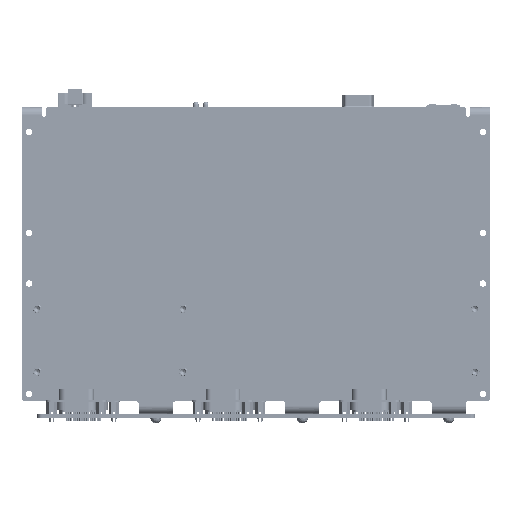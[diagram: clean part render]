
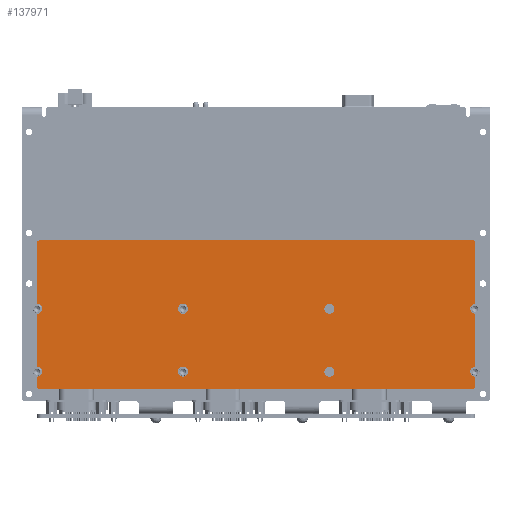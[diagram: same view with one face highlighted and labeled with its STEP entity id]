
A CAD part, front view. The second image highlights one B-rep face of the part: STEP entity #137971.
In plain terms, the highlighted planar face has unit normal (0, -1, 0).
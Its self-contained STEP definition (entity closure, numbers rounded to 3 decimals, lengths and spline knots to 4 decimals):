
#32032=CARTESIAN_POINT('',(-4.35,-0.3172,-2.485));
#32033=DIRECTION('',(0.,1.,0.));
#32034=DIRECTION('',(0.,0.,1.));
#32035=AXIS2_PLACEMENT_3D('',#32032,#32033,#32034);
#32045=CARTESIAN_POINT('',(-4.35,-0.3172,-1.235));
#32046=DIRECTION('',(0.,1.,0.));
#32047=DIRECTION('',(0.,0.,1.));
#32048=AXIS2_PLACEMENT_3D('',#32045,#32046,#32047);
#32074=CARTESIAN_POINT('',(4.359,-0.3172,-1.235));
#32075=DIRECTION('',(0.,1.,0.));
#32076=DIRECTION('',(0.01,0.,-1.));
#32077=AXIS2_PLACEMENT_3D('',#32074,#32075,#32076);
#32087=CARTESIAN_POINT('',(4.359,-0.3172,-2.485));
#32088=DIRECTION('',(0.,1.,0.));
#32089=DIRECTION('',(0.01,0.,-1.));
#32090=AXIS2_PLACEMENT_3D('',#32087,#32088,#32089);
#32108=CARTESIAN_POINT('',(4.31,-0.3172,-2.775));
#32109=DIRECTION('',(0.,-1.,0.));
#32110=DIRECTION('',(0.,0.,-1.));
#32111=AXIS2_PLACEMENT_3D('',#32108,#32109,#32110);
#32113=DIRECTION('',(-1.,0.,0.));
#32114=VECTOR('',#32113,8.61);
#32115=CARTESIAN_POINT('',(4.31,-0.3172,-2.825));
#32116=LINE('',#32115,#32114);
#32117=CARTESIAN_POINT('',(-4.3,-0.3172,-2.775));
#32118=DIRECTION('',(0.,-1.,0.));
#32119=DIRECTION('',(-1.,0.,0.));
#32120=AXIS2_PLACEMENT_3D('',#32117,#32118,#32119);
#32122=DIRECTION('',(0.,0.,1.));
#32123=VECTOR('',#32122,0.19);
#32124=CARTESIAN_POINT('',(-4.35,-0.3172,-2.775));
#32125=LINE('',#32124,#32123);
#32126=DIRECTION('',(0.,0.,1.));
#32127=VECTOR('',#32126,1.05);
#32128=CARTESIAN_POINT('',(-4.35,-0.3172,-2.385));
#32129=LINE('',#32128,#32127);
#32130=DIRECTION('',(0.,0.,1.));
#32131=VECTOR('',#32130,1.21);
#32132=CARTESIAN_POINT('',(-4.35,-0.3172,-1.135));
#32133=LINE('',#32132,#32131);
#32134=CARTESIAN_POINT('',(-4.3,-0.3172,0.075));
#32135=DIRECTION('',(0.,-1.,0.));
#32136=DIRECTION('',(0.,0.,1.));
#32137=AXIS2_PLACEMENT_3D('',#32134,#32135,#32136);
#32139=DIRECTION('',(1.,0.,0.));
#32140=VECTOR('',#32139,8.61);
#32141=CARTESIAN_POINT('',(-4.3,-0.3172,0.125));
#32142=LINE('',#32141,#32140);
#32143=CARTESIAN_POINT('',(4.31,-0.3172,0.075));
#32144=DIRECTION('',(0.,-1.,0.));
#32145=DIRECTION('',(1.,0.,0.));
#32146=AXIS2_PLACEMENT_3D('',#32143,#32144,#32145);
#32148=DIRECTION('',(0.,0.,-1.));
#32149=VECTOR('',#32148,1.21);
#32150=CARTESIAN_POINT('',(4.36,-0.3172,0.075));
#32151=LINE('',#32150,#32149);
#32152=DIRECTION('',(0.,0.,-1.));
#32153=VECTOR('',#32152,1.05);
#32154=CARTESIAN_POINT('',(4.36,-0.3172,-1.335));
#32155=LINE('',#32154,#32153);
#32156=DIRECTION('',(0.,0.,-1.));
#32157=VECTOR('',#32156,0.19);
#32158=CARTESIAN_POINT('',(4.36,-0.3172,-2.585));
#32159=LINE('',#32158,#32157);
#32160=CARTESIAN_POINT('',(-1.4505,-0.3172,-1.235));
#32161=DIRECTION('',(0.,-1.,0.));
#32162=DIRECTION('',(1.,0.,0.));
#32163=AXIS2_PLACEMENT_3D('',#32160,#32161,#32162);
#32165=CARTESIAN_POINT('',(-1.4505,-0.3172,-1.235));
#32166=DIRECTION('',(0.,-1.,0.));
#32167=DIRECTION('',(-1.,0.,0.));
#32168=AXIS2_PLACEMENT_3D('',#32165,#32166,#32167);
#32170=CARTESIAN_POINT('',(-1.4505,-0.3172,-2.485));
#32171=DIRECTION('',(0.,-1.,0.));
#32172=DIRECTION('',(1.,0.,0.));
#32173=AXIS2_PLACEMENT_3D('',#32170,#32171,#32172);
#32175=CARTESIAN_POINT('',(-1.4505,-0.3172,-2.485));
#32176=DIRECTION('',(0.,-1.,0.));
#32177=DIRECTION('',(-1.,0.,0.));
#32178=AXIS2_PLACEMENT_3D('',#32175,#32176,#32177);
#32180=CARTESIAN_POINT('',(1.4595,-0.3172,-1.235));
#32181=DIRECTION('',(0.,-1.,0.));
#32182=DIRECTION('',(1.,0.,0.));
#32183=AXIS2_PLACEMENT_3D('',#32180,#32181,#32182);
#32185=CARTESIAN_POINT('',(1.4595,-0.3172,-1.235));
#32186=DIRECTION('',(0.,-1.,0.));
#32187=DIRECTION('',(-1.,0.,0.));
#32188=AXIS2_PLACEMENT_3D('',#32185,#32186,#32187);
#32190=CARTESIAN_POINT('',(1.4595,-0.3172,-2.485));
#32191=DIRECTION('',(0.,-1.,0.));
#32192=DIRECTION('',(1.,0.,0.));
#32193=AXIS2_PLACEMENT_3D('',#32190,#32191,#32192);
#32195=CARTESIAN_POINT('',(1.4595,-0.3172,-2.485));
#32196=DIRECTION('',(0.,-1.,0.));
#32197=DIRECTION('',(-1.,0.,0.));
#32198=AXIS2_PLACEMENT_3D('',#32195,#32196,#32197);
#99115=CARTESIAN_POINT('',(-1.3505,-0.3172,-1.235));
#99116=CARTESIAN_POINT('',(-1.5505,-0.3172,-1.235));
#99117=VERTEX_POINT('',#99115);
#99118=VERTEX_POINT('',#99116);
#99119=CARTESIAN_POINT('',(-1.3505,-0.3172,-2.485));
#99120=CARTESIAN_POINT('',(-1.5505,-0.3172,-2.485));
#99121=VERTEX_POINT('',#99119);
#99122=VERTEX_POINT('',#99120);
#99123=CARTESIAN_POINT('',(1.5595,-0.3172,-1.235));
#99124=CARTESIAN_POINT('',(1.3595,-0.3172,-1.235));
#99125=VERTEX_POINT('',#99123);
#99126=VERTEX_POINT('',#99124);
#99127=CARTESIAN_POINT('',(1.5595,-0.3172,-2.485));
#99128=CARTESIAN_POINT('',(1.3595,-0.3172,-2.485));
#99129=VERTEX_POINT('',#99127);
#99130=VERTEX_POINT('',#99128);
#99131=CARTESIAN_POINT('',(-4.35,-0.3172,-2.385));
#99132=CARTESIAN_POINT('',(-4.35,-0.3172,-1.335));
#99133=VERTEX_POINT('',#99131);
#99134=VERTEX_POINT('',#99132);
#99135=CARTESIAN_POINT('',(4.36,-0.3172,-1.335));
#99136=CARTESIAN_POINT('',(4.36,-0.3172,-2.385));
#99137=VERTEX_POINT('',#99135);
#99138=VERTEX_POINT('',#99136);
#99139=CARTESIAN_POINT('',(-4.35,-0.3172,-1.135));
#99140=VERTEX_POINT('',#99139);
#99141=CARTESIAN_POINT('',(-4.35,-0.3172,-2.585));
#99142=VERTEX_POINT('',#99141);
#99143=CARTESIAN_POINT('',(4.36,-0.3172,-2.585));
#99144=VERTEX_POINT('',#99143);
#99145=CARTESIAN_POINT('',(4.36,-0.3172,-1.135));
#99146=VERTEX_POINT('',#99145);
#99147=CARTESIAN_POINT('',(4.31,-0.3172,-2.825));
#99148=CARTESIAN_POINT('',(4.36,-0.3172,-2.775));
#99149=VERTEX_POINT('',#99147);
#99150=VERTEX_POINT('',#99148);
#99151=CARTESIAN_POINT('',(4.36,-0.3172,0.075));
#99152=CARTESIAN_POINT('',(4.31,-0.3172,0.125));
#99153=VERTEX_POINT('',#99151);
#99154=VERTEX_POINT('',#99152);
#99155=CARTESIAN_POINT('',(-4.3,-0.3172,0.125));
#99156=CARTESIAN_POINT('',(-4.35,-0.3172,0.075));
#99157=VERTEX_POINT('',#99155);
#99158=VERTEX_POINT('',#99156);
#99159=CARTESIAN_POINT('',(-4.35,-0.3172,-2.775));
#99160=CARTESIAN_POINT('',(-4.3,-0.3172,-2.825));
#99161=VERTEX_POINT('',#99159);
#99162=VERTEX_POINT('',#99160);
#137924=CARTESIAN_POINT('',(0.005,-0.3172,-1.35));
#137925=DIRECTION('',(0.,1.,0.));
#137926=DIRECTION('',(1.,0.,0.));
#137927=AXIS2_PLACEMENT_3D('',#137924,#137925,#137926);
#137928=PLANE('',#137927);
#137929=ORIENTED_EDGE('',*,*,#137891,.F.);
#137930=ORIENTED_EDGE('',*,*,#137905,.T.);
#137931=ORIENTED_EDGE('',*,*,#137918,.F.);
#137932=ORIENTED_EDGE('',*,*,#137708,.T.);
#137933=ORIENTED_EDGE('',*,*,#137723,.F.);
#137934=ORIENTED_EDGE('',*,*,#137737,.T.);
#137935=ORIENTED_EDGE('',*,*,#137751,.F.);
#137936=ORIENTED_EDGE('',*,*,#137765,.T.);
#137937=ORIENTED_EDGE('',*,*,#137779,.F.);
#137938=ORIENTED_EDGE('',*,*,#137793,.T.);
#137939=ORIENTED_EDGE('',*,*,#137807,.F.);
#137940=ORIENTED_EDGE('',*,*,#137821,.T.);
#137941=ORIENTED_EDGE('',*,*,#137835,.F.);
#137942=ORIENTED_EDGE('',*,*,#137849,.T.);
#137943=ORIENTED_EDGE('',*,*,#137863,.F.);
#137944=ORIENTED_EDGE('',*,*,#137877,.T.);
#137945=EDGE_LOOP('',(#137929,#137930,#137931,#137932,#137933,#137934,#137935,
#137936,#137937,#137938,#137939,#137940,#137941,#137942,#137943,#137944));
#137946=FACE_OUTER_BOUND('',#137945,.F.);
#137948=ORIENTED_EDGE('',*,*,#137947,.T.);
#137950=ORIENTED_EDGE('',*,*,#137949,.T.);
#137951=EDGE_LOOP('',(#137948,#137950));
#137952=FACE_BOUND('',#137951,.F.);
#137954=ORIENTED_EDGE('',*,*,#137953,.T.);
#137956=ORIENTED_EDGE('',*,*,#137955,.T.);
#137957=EDGE_LOOP('',(#137954,#137956));
#137958=FACE_BOUND('',#137957,.F.);
#137960=ORIENTED_EDGE('',*,*,#137959,.T.);
#137962=ORIENTED_EDGE('',*,*,#137961,.T.);
#137963=EDGE_LOOP('',(#137960,#137962));
#137964=FACE_BOUND('',#137963,.F.);
#137966=ORIENTED_EDGE('',*,*,#137965,.T.);
#137968=ORIENTED_EDGE('',*,*,#137967,.T.);
#137969=EDGE_LOOP('',(#137966,#137968));
#137970=FACE_BOUND('',#137969,.F.);
#137971=ADVANCED_FACE('',(#137946,#137952,#137958,#137964,#137970),#137928,.F.);
#32036=CIRCLE('',#32035,0.1);
#32049=CIRCLE('',#32048,0.1);
#32078=CIRCLE('',#32077,0.1);
#32091=CIRCLE('',#32090,0.1);
#32112=CIRCLE('',#32111,0.05);
#32121=CIRCLE('',#32120,0.05);
#32138=CIRCLE('',#32137,0.05);
#32147=CIRCLE('',#32146,0.05);
#32164=CIRCLE('',#32163,0.1);
#32169=CIRCLE('',#32168,0.1);
#32174=CIRCLE('',#32173,0.1);
#32179=CIRCLE('',#32178,0.1);
#32184=CIRCLE('',#32183,0.1);
#32189=CIRCLE('',#32188,0.1);
#32194=CIRCLE('',#32193,0.1);
#32199=CIRCLE('',#32198,0.1);
#137708=EDGE_CURVE('',#99161,#99142,#32125,.T.);
#137723=EDGE_CURVE('',#99133,#99142,#32036,.T.);
#137737=EDGE_CURVE('',#99133,#99134,#32129,.T.);
#137751=EDGE_CURVE('',#99140,#99134,#32049,.T.);
#137765=EDGE_CURVE('',#99140,#99158,#32133,.T.);
#137779=EDGE_CURVE('',#99157,#99158,#32138,.T.);
#137793=EDGE_CURVE('',#99157,#99154,#32142,.T.);
#137807=EDGE_CURVE('',#99153,#99154,#32147,.T.);
#137821=EDGE_CURVE('',#99153,#99146,#32151,.T.);
#137835=EDGE_CURVE('',#99137,#99146,#32078,.T.);
#137849=EDGE_CURVE('',#99137,#99138,#32155,.T.);
#137863=EDGE_CURVE('',#99144,#99138,#32091,.T.);
#137877=EDGE_CURVE('',#99144,#99150,#32159,.T.);
#137891=EDGE_CURVE('',#99149,#99150,#32112,.T.);
#137905=EDGE_CURVE('',#99149,#99162,#32116,.T.);
#137918=EDGE_CURVE('',#99161,#99162,#32121,.T.);
#137947=EDGE_CURVE('',#99117,#99118,#32164,.T.);
#137949=EDGE_CURVE('',#99118,#99117,#32169,.T.);
#137953=EDGE_CURVE('',#99121,#99122,#32174,.T.);
#137955=EDGE_CURVE('',#99122,#99121,#32179,.T.);
#137959=EDGE_CURVE('',#99125,#99126,#32184,.T.);
#137961=EDGE_CURVE('',#99126,#99125,#32189,.T.);
#137965=EDGE_CURVE('',#99129,#99130,#32194,.T.);
#137967=EDGE_CURVE('',#99130,#99129,#32199,.T.);
